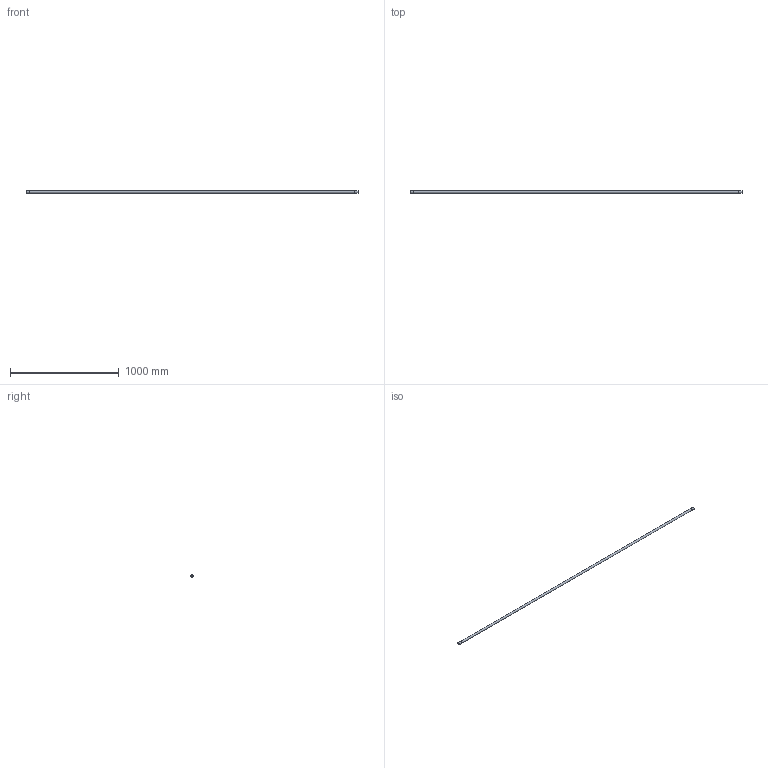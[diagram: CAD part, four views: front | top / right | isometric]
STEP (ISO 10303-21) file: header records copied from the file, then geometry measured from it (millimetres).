
FILE_DESCRIPTION(('FreeCAD Model'),'2;1');
FILE_NAME('Open CASCADE Shape Model','2026-10-12T23:06:14',('Author'),( ''),'Open CASCADE STEP processor 7.8','FreeCAD','Unknown');
FILE_SCHEMA(('AUTOMOTIVE_DESIGN { 1 0 10303 214 1 1 1 1 }'));
Length unit declared in the file: millimetre
Products named in the file (4): noodles; Rope_angel_hair_3m; EndCap_Start; EndCap_End
Assembly tree (3 placements, depth 2):
  noodles
    Rope_angel_hair_3m
    EndCap_Start
    EndCap_End
Bounding box: 3056 x 20.8 x 20.8 mm (x, y, z)
Volume: 961506.3 mm3; surface area: 194142.4 mm2
Topology: 3 solids, 3 shells, 9 faces, 9 edges, 6 vertices
Faces by surface type: plane 6, cylinder 3
Full cylindrical faces by diameter (mm): 20 x1, 20.8 x2
Entity records: 229 total; most frequent: DIRECTION 41, CARTESIAN_POINT 28, AXIS2_PLACEMENT_3D 19, ORIENTED_EDGE 18, ADVANCED_FACE 9, FACE_BOUND 9, EDGE_LOOP 9, EDGE_CURVE 9
